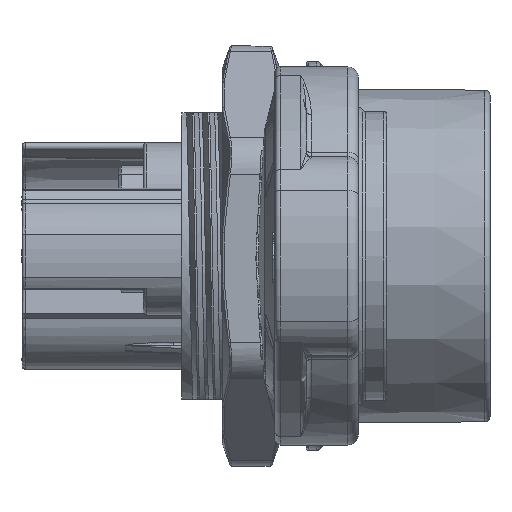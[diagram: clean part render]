
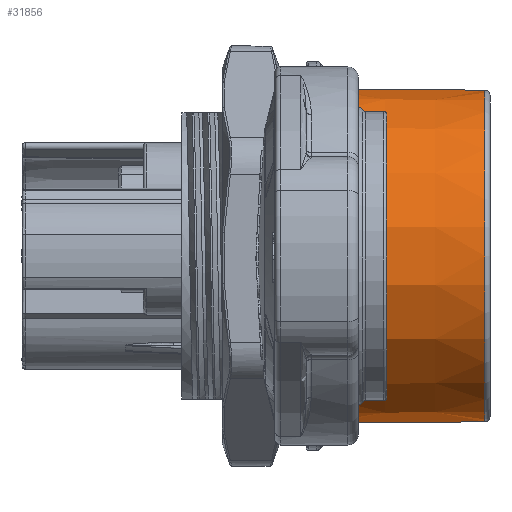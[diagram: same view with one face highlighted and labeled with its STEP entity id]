
A CAD part, front view. The second image highlights one B-rep face of the part: STEP entity #31856.
In plain terms, the highlighted conical face has half-angle 0.5 degrees and reference radius 16 mm.
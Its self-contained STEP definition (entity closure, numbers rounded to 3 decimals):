
#6415 = VECTOR ( 'NONE', #33990, 1000. ) ;
#8573 = FACE_OUTER_BOUND ( 'NONE', #43450, .T. ) ;
#9666 = CARTESIAN_POINT ( 'NONE',  ( -0.496, 0., -15.873 ) ) ;
#13124 = AXIS2_PLACEMENT_3D ( 'NONE', #71808, #65484, #54019 ) ;
#14660 = ORIENTED_EDGE ( 'NONE', *, *, #34161, .T. ) ;
#15546 = CARTESIAN_POINT ( 'NONE',  ( -15.1, 0., -16. ) ) ;
#17009 = AXIS2_PLACEMENT_3D ( 'NONE', #46255, #28850, #58504 ) ;
#21505 = EDGE_CURVE ( 'NONE', #49360, #62049, #33711, .T. ) ;
#26734 = DIRECTION ( 'NONE',  ( 0., 0., -1. ) ) ;
#28850 = DIRECTION ( 'NONE',  ( 1., 0., 0. ) ) ;
#30093 = AXIS2_PLACEMENT_3D ( 'NONE', #43728, #32657, #26734 ) ;
#30640 = VECTOR ( 'NONE', #57439, 1000. ) ;
#31856 = ADVANCED_FACE ( 'NONE', ( #8573 ), #32636, .T. ) ;
#32636 = CONICAL_SURFACE ( 'NONE', #30093, 16., 0.009 ) ;
#32657 = DIRECTION ( 'NONE',  ( -1., 0., 0. ) ) ;
#33711 = LINE ( 'NONE', #15546, #30640 ) ;
#33990 = DIRECTION ( 'NONE',  ( -1., 0., 0.009 ) ) ;
#34161 = EDGE_CURVE ( 'NONE', #64911, #51281, #51366, .T. ) ;
#40112 = CARTESIAN_POINT ( 'NONE',  ( -14.803, 0., 15.997 ) ) ;
#40887 = ORIENTED_EDGE ( 'NONE', *, *, #48208, .T. ) ;
#43416 = CIRCLE ( 'NONE', #13124, 15.873 ) ;
#43450 = EDGE_LOOP ( 'NONE', ( #63538, #14660, #40887, #52812 ) ) ;
#43728 = CARTESIAN_POINT ( 'NONE',  ( -15.1, 0., 0. ) ) ;
#46255 = CARTESIAN_POINT ( 'NONE',  ( -14.803, 0., 0. ) ) ;
#47297 = CIRCLE ( 'NONE', #17009, 15.997 ) ;
#47742 = CARTESIAN_POINT ( 'NONE',  ( -14.803, 0., -15.997 ) ) ;
#48208 = EDGE_CURVE ( 'NONE', #51281, #62049, #47297, .T. ) ;
#49360 = VERTEX_POINT ( 'NONE', #9666 ) ;
#51281 = VERTEX_POINT ( 'NONE', #40112 ) ;
#51366 = LINE ( 'NONE', #76634, #6415 ) ;
#51527 = CARTESIAN_POINT ( 'NONE',  ( -0.496, 0., 15.873 ) ) ;
#52812 = ORIENTED_EDGE ( 'NONE', *, *, #21505, .F. ) ;
#54019 = DIRECTION ( 'NONE',  ( 0., 0., -1. ) ) ;
#57439 = DIRECTION ( 'NONE',  ( -1., 0., -0.009 ) ) ;
#58504 = DIRECTION ( 'NONE',  ( 0., 0., 1. ) ) ;
#62049 = VERTEX_POINT ( 'NONE', #47742 ) ;
#63538 = ORIENTED_EDGE ( 'NONE', *, *, #75715, .T. ) ;
#64911 = VERTEX_POINT ( 'NONE', #51527 ) ;
#65484 = DIRECTION ( 'NONE',  ( -1., 0., 0. ) ) ;
#71808 = CARTESIAN_POINT ( 'NONE',  ( -0.496, 0., 0. ) ) ;
#75715 = EDGE_CURVE ( 'NONE', #49360, #64911, #43416, .T. ) ;
#76634 = CARTESIAN_POINT ( 'NONE',  ( -15.1, 0., 16. ) ) ;
